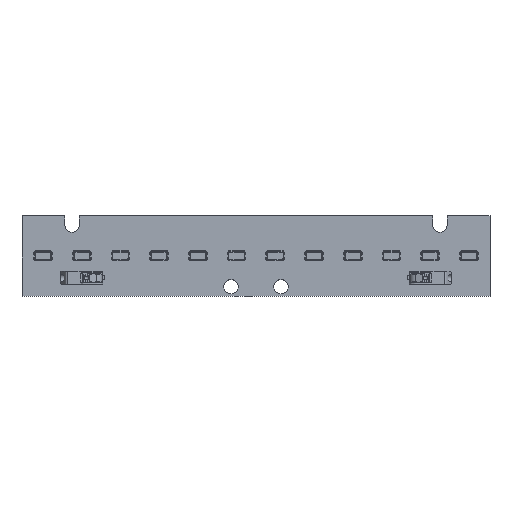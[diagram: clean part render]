
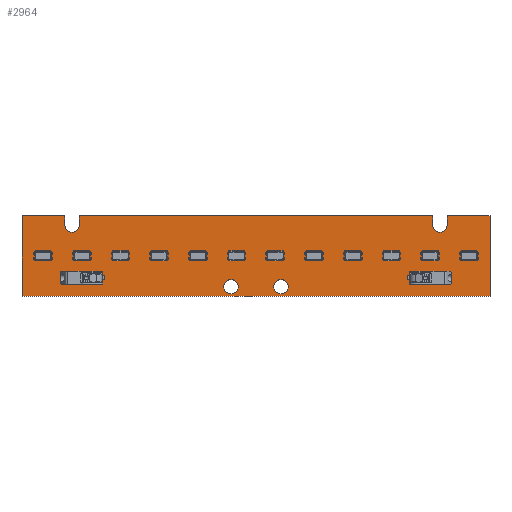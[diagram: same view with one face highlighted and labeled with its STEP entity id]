
A CAD part, top view. The second image highlights one B-rep face of the part: STEP entity #2964.
In plain terms, the highlighted planar face has unit normal (0, 0, 1).
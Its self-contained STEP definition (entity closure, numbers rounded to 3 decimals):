
#93 = CARTESIAN_POINT ( 'NONE',  ( 0., 0., 1.6 ) ) ;
#137 = AXIS2_PLACEMENT_3D ( 'NONE', #780, #4171, #1280 ) ;
#183 = ORIENTED_EDGE ( 'NONE', *, *, #901, .T. ) ;
#185 = CARTESIAN_POINT ( 'NONE',  ( 122.85, 36.131, 1.6 ) ) ;
#262 = CARTESIAN_POINT ( 'NONE',  ( 12.85, 34.983, 1.6 ) ) ;
#282 = ORIENTED_EDGE ( 'NONE', *, *, #5704, .F. ) ;
#288 = ORIENTED_EDGE ( 'NONE', *, *, #5066, .F. ) ;
#326 = EDGE_CURVE ( 'NONE', #1339, #794, #811, .T. ) ;
#346 = DIRECTION ( 'NONE',  ( 0., 1., 0. ) ) ;
#423 = VECTOR ( 'NONE', #1016, 1000. ) ;
#431 = CARTESIAN_POINT ( 'NONE',  ( 62.5, 2.8, 1.6 ) ) ;
#508 = CARTESIAN_POINT ( 'NONE',  ( 0., 0., 1.6 ) ) ;
#514 = VECTOR ( 'NONE', #5872, 1000. ) ;
#568 = VERTEX_POINT ( 'NONE', #6065 ) ;
#570 = EDGE_CURVE ( 'NONE', #1763, #4903, #5427, .T. ) ;
#578 = DIRECTION ( 'NONE',  ( 0., -1., 0. ) ) ;
#627 = CARTESIAN_POINT ( 'NONE',  ( 122.85, 24., 1.6 ) ) ;
#648 = CIRCLE ( 'NONE', #137, 2.15 ) ;
#761 = DIRECTION ( 'NONE',  ( 0., -1., 0. ) ) ;
#780 = CARTESIAN_POINT ( 'NONE',  ( 62.5, 2.8, 1.6 ) ) ;
#794 = VERTEX_POINT ( 'NONE', #3009 ) ;
#811 = LINE ( 'NONE', #2192, #2956 ) ;
#826 = VECTOR ( 'NONE', #5010, 1000. ) ;
#853 = CIRCLE ( 'NONE', #2142, 2.15 ) ;
#901 = EDGE_CURVE ( 'NONE', #5388, #794, #4223, .T. ) ;
#905 = CIRCLE ( 'NONE', #3600, 2.15 ) ;
#929 = DIRECTION ( 'NONE',  ( 1., 0., 0. ) ) ;
#1006 = DIRECTION ( 'NONE',  ( -1., 0., 0. ) ) ;
#1016 = DIRECTION ( 'NONE',  ( -1., 0., 0. ) ) ;
#1023 = FACE_OUTER_BOUND ( 'NONE', #3635, .T. ) ;
#1064 = DIRECTION ( 'NONE',  ( -1., 0., 0. ) ) ;
#1153 = VECTOR ( 'NONE', #1064, 1000. ) ;
#1213 = VERTEX_POINT ( 'NONE', #1738 ) ;
#1280 = DIRECTION ( 'NONE',  ( 1., 0., 0. ) ) ;
#1339 = VERTEX_POINT ( 'NONE', #2299 ) ;
#1396 = LINE ( 'NONE', #93, #3812 ) ;
#1426 = DIRECTION ( 'NONE',  ( -1., 0., 0. ) ) ;
#1504 = DIRECTION ( 'NONE',  ( 0., 0., 1. ) ) ;
#1518 = VERTEX_POINT ( 'NONE', #1962 ) ;
#1537 = VECTOR ( 'NONE', #761, 1000. ) ;
#1619 = AXIS2_PLACEMENT_3D ( 'NONE', #2664, #6009, #3162 ) ;
#1679 = EDGE_LOOP ( 'NONE', ( #282, #2495 ) ) ;
#1689 = DIRECTION ( 'NONE',  ( 0., 1., 0. ) ) ;
#1690 = VERTEX_POINT ( 'NONE', #4495 ) ;
#1738 = CARTESIAN_POINT ( 'NONE',  ( 0., 0., 1.6 ) ) ;
#1763 = VERTEX_POINT ( 'NONE', #3570 ) ;
#1811 = CARTESIAN_POINT ( 'NONE',  ( 0., 24., 1.6 ) ) ;
#1880 = CARTESIAN_POINT ( 'NONE',  ( 122.85, 21.2, 1.6 ) ) ;
#1930 = EDGE_CURVE ( 'NONE', #1690, #2657, #648, .T. ) ;
#1962 = CARTESIAN_POINT ( 'NONE',  ( 75.35, 2.8, 1.6 ) ) ;
#2020 = LINE ( 'NONE', #3957, #4435 ) ;
#2142 = AXIS2_PLACEMENT_3D ( 'NONE', #431, #3844, #929 ) ;
#2192 = CARTESIAN_POINT ( 'NONE',  ( 17.15, 34.983, 1.6 ) ) ;
#2195 = CARTESIAN_POINT ( 'NONE',  ( 79.65, 2.8, 1.6 ) ) ;
#2248 = ORIENTED_EDGE ( 'NONE', *, *, #5982, .T. ) ;
#2299 = CARTESIAN_POINT ( 'NONE',  ( 17.15, 21.2, 1.6 ) ) ;
#2308 = CARTESIAN_POINT ( 'NONE',  ( 77.5, 2.8, 1.6 ) ) ;
#2374 = AXIS2_PLACEMENT_3D ( 'NONE', #508, #4850, #1006 ) ;
#2495 = ORIENTED_EDGE ( 'NONE', *, *, #4742, .F. ) ;
#2523 = CARTESIAN_POINT ( 'NONE',  ( 140., 0., 1.6 ) ) ;
#2586 = ORIENTED_EDGE ( 'NONE', *, *, #4075, .T. ) ;
#2598 = ORIENTED_EDGE ( 'NONE', *, *, #5440, .F. ) ;
#2625 = FACE_BOUND ( 'NONE', #3747, .T. ) ;
#2657 = VERTEX_POINT ( 'NONE', #4669 ) ;
#2664 = CARTESIAN_POINT ( 'NONE',  ( 15., 21.2, 1.6 ) ) ;
#2666 = CARTESIAN_POINT ( 'NONE',  ( 125., 21.2, 1.6 ) ) ;
#2716 = CARTESIAN_POINT ( 'NONE',  ( 12.85, 21.2, 1.6 ) ) ;
#2789 = VECTOR ( 'NONE', #1426, 1000. ) ;
#2791 = DIRECTION ( 'NONE',  ( 1., 0., 0. ) ) ;
#2901 = CIRCLE ( 'NONE', #4490, 2.15 ) ;
#2956 = VECTOR ( 'NONE', #1689, 1000. ) ;
#2964 = ADVANCED_FACE ( 'NONE', ( #4732, #2625, #1023 ), #3429, .F. ) ;
#2984 = ORIENTED_EDGE ( 'NONE', *, *, #3501, .F. ) ;
#3009 = CARTESIAN_POINT ( 'NONE',  ( 17.15, 24., 1.6 ) ) ;
#3020 = EDGE_CURVE ( 'NONE', #1213, #568, #2020, .T. ) ;
#3058 = CIRCLE ( 'NONE', #5013, 2.15 ) ;
#3162 = DIRECTION ( 'NONE',  ( 1., 0., 0. ) ) ;
#3163 = DIRECTION ( 'NONE',  ( 1., 0., 0. ) ) ;
#3258 = EDGE_CURVE ( 'NONE', #5600, #1339, #3378, .T. ) ;
#3283 = VERTEX_POINT ( 'NONE', #2195 ) ;
#3378 = CIRCLE ( 'NONE', #1619, 2.15 ) ;
#3429 = PLANE ( 'NONE',  #2374 ) ;
#3432 = EDGE_CURVE ( 'NONE', #4877, #4988, #6119, .T. ) ;
#3488 = ORIENTED_EDGE ( 'NONE', *, *, #4833, .T. ) ;
#3501 = EDGE_CURVE ( 'NONE', #2657, #1690, #853, .T. ) ;
#3507 = ORIENTED_EDGE ( 'NONE', *, *, #4277, .F. ) ;
#3547 = CARTESIAN_POINT ( 'NONE',  ( 0., 24., 1.6 ) ) ;
#3570 = CARTESIAN_POINT ( 'NONE',  ( 12.85, 24., 1.6 ) ) ;
#3600 = AXIS2_PLACEMENT_3D ( 'NONE', #2308, #5660, #2791 ) ;
#3635 = EDGE_LOOP ( 'NONE', ( #3488, #4565, #3507, #2598, #183, #5542, #3897, #288, #5171, #2586, #4540, #2248 ) ) ;
#3747 = EDGE_LOOP ( 'NONE', ( #4966, #2984 ) ) ;
#3812 = VECTOR ( 'NONE', #578, 1000. ) ;
#3844 = DIRECTION ( 'NONE',  ( 0., 0., 1. ) ) ;
#3877 = LINE ( 'NONE', #4453, #1153 ) ;
#3897 = ORIENTED_EDGE ( 'NONE', *, *, #3258, .F. ) ;
#3957 = CARTESIAN_POINT ( 'NONE',  ( 0., 0., 1.6 ) ) ;
#4017 = CARTESIAN_POINT ( 'NONE',  ( 127.15, 21.2, 1.6 ) ) ;
#4075 = EDGE_CURVE ( 'NONE', #4903, #1213, #1396, .T. ) ;
#4171 = DIRECTION ( 'NONE',  ( 0., 0., 1. ) ) ;
#4217 = CARTESIAN_POINT ( 'NONE',  ( 127.15, 36.131, 1.6 ) ) ;
#4223 = LINE ( 'NONE', #6192, #2789 ) ;
#4277 = EDGE_CURVE ( 'NONE', #4559, #4877, #2901, .T. ) ;
#4390 = CARTESIAN_POINT ( 'NONE',  ( 77.5, 2.8, 1.6 ) ) ;
#4397 = LINE ( 'NONE', #2523, #514 ) ;
#4435 = VECTOR ( 'NONE', #4443, 1000. ) ;
#4443 = DIRECTION ( 'NONE',  ( 1., 0., 0. ) ) ;
#4453 = CARTESIAN_POINT ( 'NONE',  ( 0., 24., 1.6 ) ) ;
#4490 = AXIS2_PLACEMENT_3D ( 'NONE', #2666, #6011, #3163 ) ;
#4495 = CARTESIAN_POINT ( 'NONE',  ( 64.65, 2.8, 1.6 ) ) ;
#4540 = ORIENTED_EDGE ( 'NONE', *, *, #3020, .T. ) ;
#4559 = VERTEX_POINT ( 'NONE', #1880 ) ;
#4565 = ORIENTED_EDGE ( 'NONE', *, *, #3432, .F. ) ;
#4593 = CARTESIAN_POINT ( 'NONE',  ( 140., 24., 1.6 ) ) ;
#4669 = CARTESIAN_POINT ( 'NONE',  ( 60.35, 2.8, 1.6 ) ) ;
#4720 = VECTOR ( 'NONE', #346, 1000. ) ;
#4732 = FACE_BOUND ( 'NONE', #1679, .T. ) ;
#4742 = EDGE_CURVE ( 'NONE', #1518, #3283, #3058, .T. ) ;
#4833 = EDGE_CURVE ( 'NONE', #5541, #4988, #3877, .T. ) ;
#4850 = DIRECTION ( 'NONE',  ( 0., 0., -1. ) ) ;
#4865 = DIRECTION ( 'NONE',  ( 1., 0., 0. ) ) ;
#4877 = VERTEX_POINT ( 'NONE', #4017 ) ;
#4903 = VERTEX_POINT ( 'NONE', #3547 ) ;
#4966 = ORIENTED_EDGE ( 'NONE', *, *, #1930, .F. ) ;
#4988 = VERTEX_POINT ( 'NONE', #5967 ) ;
#5010 = DIRECTION ( 'NONE',  ( 0., -1., 0. ) ) ;
#5013 = AXIS2_PLACEMENT_3D ( 'NONE', #4390, #1504, #4865 ) ;
#5066 = EDGE_CURVE ( 'NONE', #1763, #5600, #5216, .T. ) ;
#5171 = ORIENTED_EDGE ( 'NONE', *, *, #570, .T. ) ;
#5216 = LINE ( 'NONE', #262, #1537 ) ;
#5388 = VERTEX_POINT ( 'NONE', #627 ) ;
#5427 = LINE ( 'NONE', #1811, #423 ) ;
#5440 = EDGE_CURVE ( 'NONE', #5388, #4559, #5964, .T. ) ;
#5541 = VERTEX_POINT ( 'NONE', #4593 ) ;
#5542 = ORIENTED_EDGE ( 'NONE', *, *, #326, .F. ) ;
#5600 = VERTEX_POINT ( 'NONE', #2716 ) ;
#5660 = DIRECTION ( 'NONE',  ( 0., 0., 1. ) ) ;
#5704 = EDGE_CURVE ( 'NONE', #3283, #1518, #905, .T. ) ;
#5872 = DIRECTION ( 'NONE',  ( 0., 1., 0. ) ) ;
#5964 = LINE ( 'NONE', #185, #826 ) ;
#5967 = CARTESIAN_POINT ( 'NONE',  ( 127.15, 24., 1.6 ) ) ;
#5982 = EDGE_CURVE ( 'NONE', #568, #5541, #4397, .T. ) ;
#6009 = DIRECTION ( 'NONE',  ( 0., 0., 1. ) ) ;
#6011 = DIRECTION ( 'NONE',  ( 0., 0., 1. ) ) ;
#6065 = CARTESIAN_POINT ( 'NONE',  ( 140., 0., 1.6 ) ) ;
#6119 = LINE ( 'NONE', #4217, #4720 ) ;
#6192 = CARTESIAN_POINT ( 'NONE',  ( 0., 24., 1.6 ) ) ;
